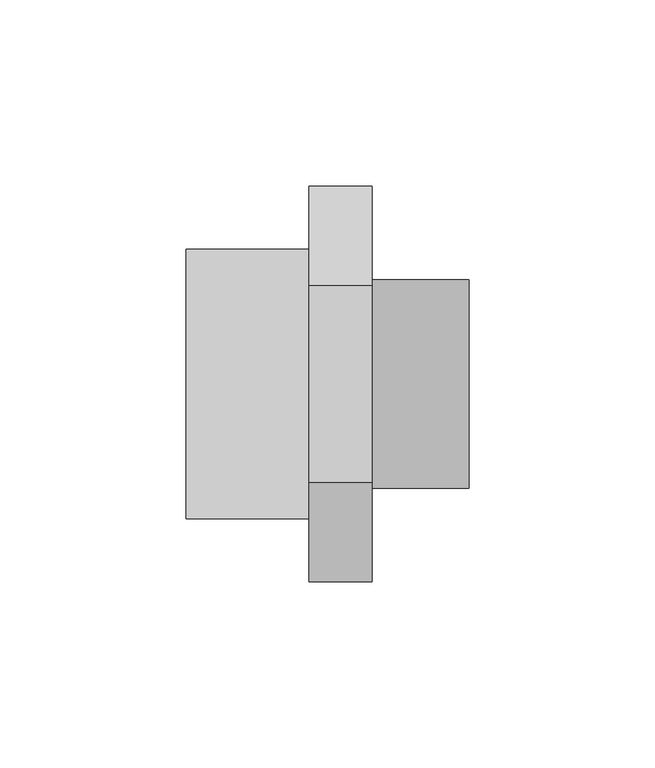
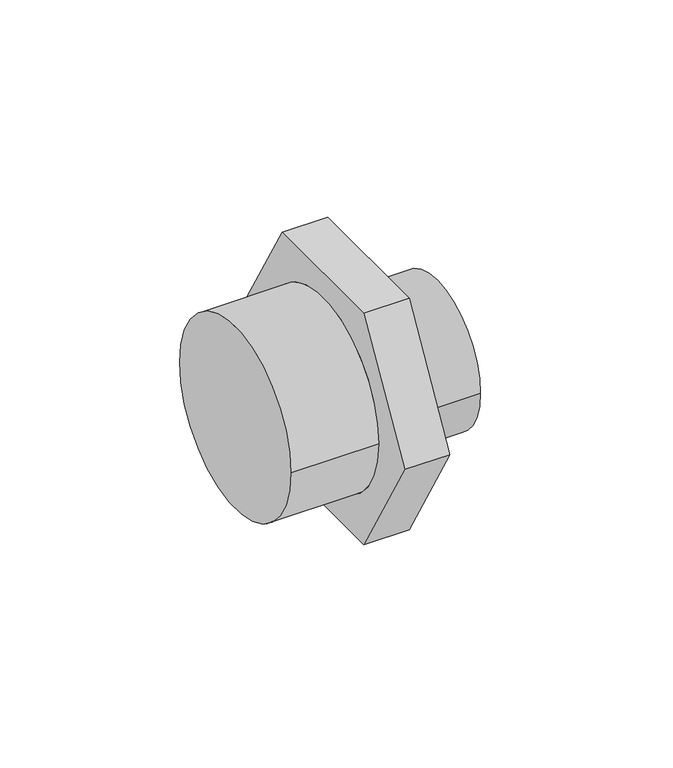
"""IFC4 building model written with IfcOpenShell, lengths in millimetres: pipe fitting geometry, 01011197 : Mamelons doubles réduction."""

from ifc_helpers import new_model, si_unit, frame, origin, place, context, project, spatial, circle_curve, source, transform, mapped, element, save
from ifc_brep_helpers import plane_surface, cylinder_surface, advanced_brep


def pipe_fitting_a8000acc(model_context):
    return source(origin(), model_context, "Body", "AdvancedBrep", [
        advanced_brep(
        [(50.0, -26.5581124, 46.0), (50.0, -53.1162248, 0.0), (50.0, -26.5581124, -46.0), (50.0, 26.5581124, -46.0), (50.0, 53.1162248, 0.0), (50.0, 26.5581124, 46.0), (50.0, -27.94, 0.0), (50.0, 27.94, 0.0), (33.0, -26.5581124, 46.0), (33.0, 26.5581124, 46.0), (33.0, 53.1162248, 0.0), (33.0, 26.5581124, -46.0), (33.0, -26.5581124, -46.0), (33.0, -53.1162248, 0.0), (33.0, 36.195, 0.0), (33.0, -36.195, 0.0), (76.0, -27.94, 0.0), (76.0, 27.94, 0.0), (0.0, 36.195, 0.0), (0.0, -36.195, 0.0)],
        [
            (0, 1),
            (1, 2),
            (2, 3),
            (3, 4),
            (4, 5),
            (5, 0),
            (6, 7, circle_curve(frame((50.0, 0.0, 0.0), z_axis=(-1.0, 0.0, 0.0), x_axis=(0.0, 1.0, 0.0)), 27.94)),
            (7, 6, circle_curve(frame((50.0, 0.0, 0.0), z_axis=(-1.0, 0.0, 0.0), x_axis=(0.0, 1.0, 0.0)), 27.94)),
            (8, 9),
            (9, 10),
            (10, 11),
            (11, 12),
            (12, 13),
            (13, 8),
            (14, 15, circle_curve(frame((33.0, 0.0, 0.0), z_axis=(1.0, 0.0, 0.0), x_axis=(0.0, -1.0, 0.0)), 36.195)),
            (15, 14, circle_curve(frame((33.0, 0.0, 0.0), z_axis=(1.0, 0.0, 0.0), x_axis=(0.0, -1.0, 0.0)), 36.195)),
            (0, 8),
            (13, 1),
            (12, 2),
            (11, 3),
            (10, 4),
            (9, 5),
            (16, 17, circle_curve(frame((76.0, 0.0, 0.0), z_axis=(1.0, 0.0, 0.0), x_axis=(0.0, 1.0, 0.0)), 27.94)),
            (17, 16, circle_curve(frame((76.0, 0.0, 0.0), z_axis=(1.0, 0.0, 0.0), x_axis=(0.0, 1.0, 0.0)), 27.94)),
            (17, 7),
            (6, 16),
            (18, 19, circle_curve(frame((0.0, 0.0, 0.0), z_axis=(-1.0, 0.0, 0.0), x_axis=(0.0, -1.0, 0.0)), 36.195)),
            (19, 18, circle_curve(frame((0.0, 0.0, 0.0), z_axis=(-1.0, 0.0, 0.0), x_axis=(0.0, -1.0, 0.0)), 36.195)),
            (19, 15),
            (14, 18),
        ],
        [
            plane_surface(frame((50.0, -26.5581124, 46.0), z_axis=(1.0, 0.0, 0.0), x_axis=(0.0, -0.500000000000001, -0.866025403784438))),
            plane_surface(frame((33.0, -26.5581124, 46.0), z_axis=(-1.0, 0.0, 0.0), x_axis=(0.0, 0.500000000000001, 0.866025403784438))),
            plane_surface(frame((50.0, -26.5581124, 46.0), z_axis=(0.0, -0.866025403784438, 0.500000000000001), x_axis=(-1.0, 0.0, 0.0))),
            plane_surface(frame((50.0, -53.1162248, 0.0), z_axis=(0.0, -0.866025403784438, -0.500000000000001), x_axis=(-1.0, 0.0, 0.0))),
            plane_surface(frame((50.0, -26.5581124, -46.0), z_axis=(0.0, 0.0, -1.0), x_axis=(-1.0, 0.0, 0.0))),
            plane_surface(frame((50.0, 26.5581124, -46.0), z_axis=(0.0, 0.8660254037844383, -0.5000000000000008), x_axis=(-1.0, 0.0, 0.0))),
            plane_surface(frame((50.0, 53.1162248, 0.0), z_axis=(0.0, 0.8660254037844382, 0.5000000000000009), x_axis=(-1.0, 0.0, 0.0))),
            plane_surface(frame((50.0, 26.5581124, 46.0), z_axis=(0.0, 0.0, 1.0), x_axis=(-1.0, 0.0, 0.0))),
            plane_surface(frame((76.0, 0.0, 0.0), z_axis=(1.0, 0.0, 0.0), x_axis=(0.0, 0.0, 1.0))),
            cylinder_surface(frame((50.0, 0.0, 0.0), z_axis=(-1.0, 0.0, 0.0), x_axis=(0.0, 1.0, 0.0)), 27.94),
            plane_surface(frame((0.0, 0.0, 0.0), z_axis=(-1.0, 0.0, 0.0), x_axis=(0.0, 0.0, 1.0))),
            cylinder_surface(frame((33.0, 0.0, 0.0), z_axis=(1.0, 0.0, 0.0), x_axis=(0.0, -1.0, 0.0)), 36.195),
        ],
        [
            (0, [[1, 2, 3, 4, 5, 6], [7, 8]]),
            (1, [[9, 10, 11, 12, 13, 14], [15, 16]]),
            (2, [[-1, 17, -14, 18]]),
            (3, [[-2, -18, -13, 19]]),
            (4, [[-3, -19, -12, 20]]),
            (5, [[-4, -20, -11, 21]]),
            (6, [[-5, -21, -10, 22]]),
            (7, [[-6, -22, -9, -17]]),
            (8, [[23, 24]]),
            (9, [[-24, 25, -7, 26]]),
            (9, [[-23, -26, -8, -25]]),
            (10, [[27, 28]]),
            (11, [[-28, 29, -15, 30]]),
            (11, [[-27, -30, -16, -29]]),
        ],
    ),
    ])


if __name__ == "__main__":
    model = new_model("IFC4")
    model_context = context("Model", 3, world=origin())
    ifc_project = project(units=[si_unit("LENGTHUNIT", "METRE", prefix="MILLI")], contexts=[model_context])
    site = spatial("IfcSite", under=ifc_project)
    building = spatial("IfcBuilding", under=site)
    placement = place(None, origin())
    pipe_fitting_shape = pipe_fitting_a8000acc(model_context)
    element("IfcPipeFitting", 1, ObjectType="01011197 : Mamelons doubles réduction", at=placement, inside=building, context=model_context, shape_type="MappedRepresentation", body=[
        mapped(pipe_fitting_shape, transform((0.0, 0.0, 0.0), x_axis=(1.0, 0.0, 0.0), y_axis=(0.0, 1.0, 0.0), z_axis=(0.0, 0.0, 1.0))),
    ])
    save(model, "model.ifc")
